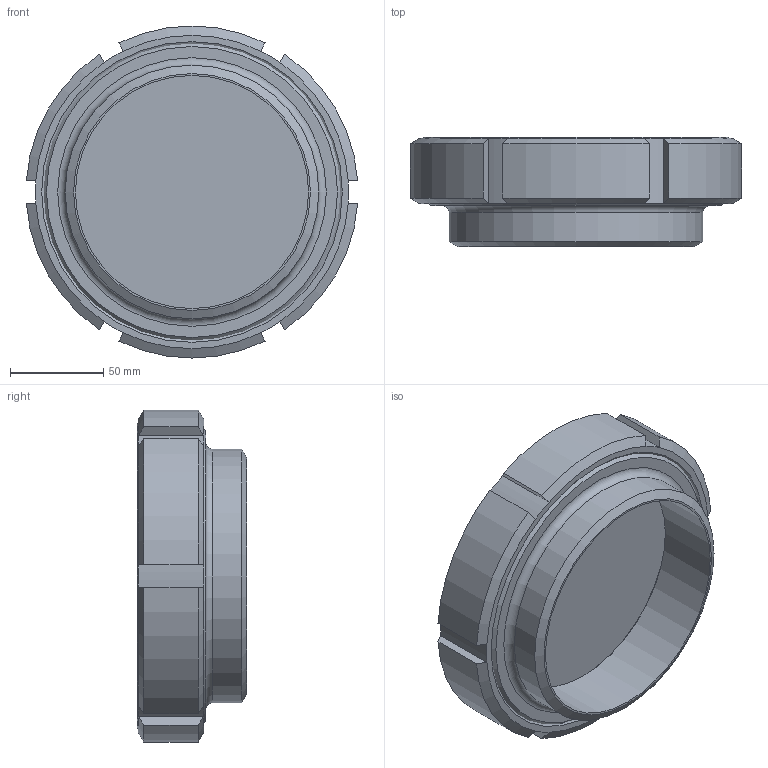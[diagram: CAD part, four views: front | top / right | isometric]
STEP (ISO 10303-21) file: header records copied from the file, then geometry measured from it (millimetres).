
FILE_DESCRIPTION(/* description */ ('Unknown'),/* implementation_level */ '2;1');
FILE_NAME(/* name */ 'MV 125',/* time_stamp */ '2016-01-18T15:18:29+01:00',/* author */ ('Unknown'),/* organization */ ('Unknown'),/* preprocessor_version */ 'ST-DEVELOPER v16.7',/* originating_system */ 'DEX',/* authorisation */ $);
FILE_SCHEMA (('CONFIG_CONTROL_DESIGN'));
Length unit declared in the file: millimetre
Products named in the file (6): 0207.004.38_01; 4019.015.38_01; 0863.177.38_01; 1775.018.38_01; 5684.010.38_01; 8412.009.38_01
Assembly tree (5 placements, depth 2):
  0207.004.38_01
    4019.015.38_01
    0863.177.38_01
    1775.018.38_01
    5684.010.38_01
    8412.009.38_01
Bounding box: 177.59 x 58.5 x 178 mm (x, y, z)
Volume: 642449.6 mm3; surface area: 178379.4 mm2
Topology: 5 solids, 5 shells, 79 faces, 155 edges, 92 vertices
Faces by surface type: plane 28, cylinder 25, cone 21, torus 5
Full cylindrical faces by diameter (mm): 125 x3, 129 x1, 130 x1, 136 x1, 141 x1, 142 x1, 142.055 x1, 152 x1, 156 x1, 160 x2
Entity records: 2048 total; most frequent: CARTESIAN_POINT 371, DIRECTION 348, ORIENTED_EDGE 250, AXIS2_PLACEMENT_3D 162, EDGE_CURVE 125, EDGE_LOOP 120, FACE_BOUND 120, VERTEX_POINT 89
